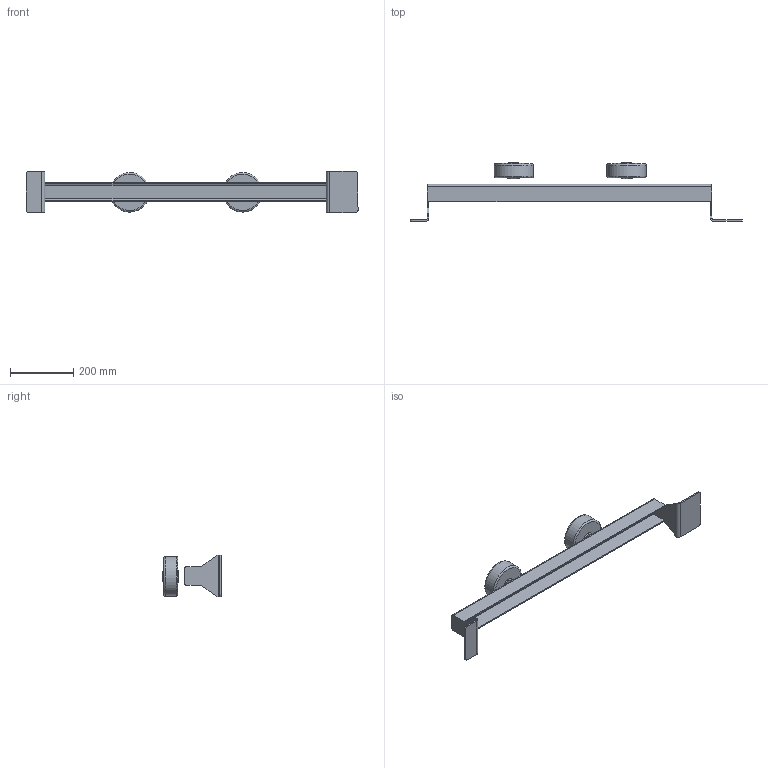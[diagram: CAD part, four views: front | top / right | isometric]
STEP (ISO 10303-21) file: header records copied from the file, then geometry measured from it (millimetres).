
FILE_DESCRIPTION((''),'2;1');
FILE_NAME('C:\Vault_Working_Folder\Designs\Inventor\Lättviktsmodeller\Maxi\IRPH 80-950.stp','2012-11-13T09:49:36',('martin.samuelsson'),(''),'Autodesk Inventor 2013','Autodesk Inventor 2013','');
FILE_SCHEMA(('AUTOMOTIVE_DESIGN { 1 0 10303 214 1 1 1 1 }'));
Length unit declared in the file: millimetre
Products named in the file (1): IRPH 80-950
Bounding box: 1049.7 x 185 x 130 mm (x, y, z)
Volume: 1852830.7 mm3; surface area: 447429.4 mm2
Topology: 3 solids, 3 shells, 56 faces, 132 edges, 86 vertices
Faces by surface type: plane 34, cylinder 14, torus 8
Full cylindrical faces by diameter (mm): 125 x2
Entity records: 1626 total; most frequent: DIRECTION 274, CARTESIAN_POINT 257, ORIENTED_EDGE 236, EDGE_CURVE 118, AXIS2_PLACEMENT_3D 99, VERTEX_POINT 82, VECTOR 76, LINE 76
